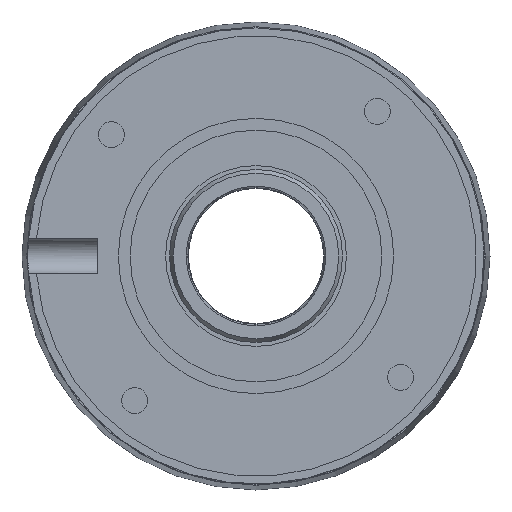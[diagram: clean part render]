
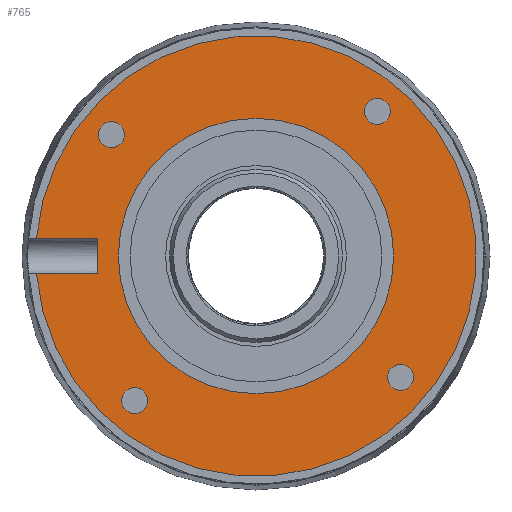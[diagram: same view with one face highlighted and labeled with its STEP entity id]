
A CAD part, left-side view. The second image highlights one B-rep face of the part: STEP entity #765.
In plain terms, the highlighted planar face has unit normal (-1, 0, 0).
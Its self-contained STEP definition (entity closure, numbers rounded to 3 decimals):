
#7 = AXIS2_PLACEMENT_3D ( 'NONE', #1388, #1692, #880 ) ;
#37 = EDGE_CURVE ( 'NONE', #883, #1172, #1647, .T. ) ;
#58 = VERTEX_POINT ( 'NONE', #176 ) ;
#128 = FACE_BOUND ( 'NONE', #238, .T. ) ;
#137 = CARTESIAN_POINT ( 'NONE',  ( 0., 27.909, -2.25 ) ) ;
#155 = ORIENTED_EDGE ( 'NONE', *, *, #37, .T. ) ;
#176 = CARTESIAN_POINT ( 'NONE',  ( 0., 18.385, 17.077 ) ) ;
#188 = VECTOR ( 'NONE', #1351, 1000. ) ;
#212 = AXIS2_PLACEMENT_3D ( 'NONE', #311, #1101, #1497 ) ;
#225 = CARTESIAN_POINT ( 'NONE',  ( 0., 20.2, -2.25 ) ) ;
#238 = EDGE_LOOP ( 'NONE', ( #317 ) ) ;
#245 = ORIENTED_EDGE ( 'NONE', *, *, #1038, .F. ) ;
#249 = CIRCLE ( 'NONE', #1654, 17.5 ) ;
#252 = DIRECTION ( 'NONE',  ( -1., 0., 0. ) ) ;
#258 = DIRECTION ( 'NONE',  ( 0., 0., 1. ) ) ;
#266 = DIRECTION ( 'NONE',  ( 0., 0., 1. ) ) ;
#278 = EDGE_LOOP ( 'NONE', ( #612 ) ) ;
#298 = FACE_BOUND ( 'NONE', #650, .T. ) ;
#311 = CARTESIAN_POINT ( 'NONE',  ( 0., -18.385, -15.427 ) ) ;
#317 = ORIENTED_EDGE ( 'NONE', *, *, #1726, .F. ) ;
#320 = CIRCLE ( 'NONE', #212, 1.65 ) ;
#321 = ORIENTED_EDGE ( 'NONE', *, *, #971, .F. ) ;
#380 = VECTOR ( 'NONE', #1003, 1000. ) ;
#385 = AXIS2_PLACEMENT_3D ( 'NONE', #561, #1084, #1744 ) ;
#400 = EDGE_CURVE ( 'NONE', #1666, #1666, #249, .T. ) ;
#419 = CARTESIAN_POINT ( 'NONE',  ( 0., 20.2, 2.25 ) ) ;
#429 = VERTEX_POINT ( 'NONE', #1731 ) ;
#447 = LINE ( 'NONE', #1544, #380 ) ;
#461 = CARTESIAN_POINT ( 'NONE',  ( 0., 20.2, 2.25 ) ) ;
#471 = EDGE_LOOP ( 'NONE', ( #509 ) ) ;
#488 = FACE_BOUND ( 'NONE', #471, .T. ) ;
#509 = ORIENTED_EDGE ( 'NONE', *, *, #400, .F. ) ;
#518 = EDGE_CURVE ( 'NONE', #572, #572, #320, .T. ) ;
#552 = CARTESIAN_POINT ( 'NONE',  ( 0., 0., 17.5 ) ) ;
#557 = LINE ( 'NONE', #419, #188 ) ;
#561 = CARTESIAN_POINT ( 'NONE',  ( 0., 18.385, 15.427 ) ) ;
#572 = VERTEX_POINT ( 'NONE', #589 ) ;
#581 = FACE_OUTER_BOUND ( 'NONE', #1359, .T. ) ;
#589 = CARTESIAN_POINT ( 'NONE',  ( 0., -18.385, -13.777 ) ) ;
#612 = ORIENTED_EDGE ( 'NONE', *, *, #518, .F. ) ;
#650 = EDGE_LOOP ( 'NONE', ( #321 ) ) ;
#747 = DIRECTION ( 'NONE',  ( -1., 0., 0. ) ) ;
#750 = DIRECTION ( 'NONE',  ( 0., 0., 1. ) ) ;
#765 = ADVANCED_FACE ( 'NONE', ( #298, #1114, #1327, #128, #581, #488 ), #939, .T. ) ;
#826 = CIRCLE ( 'NONE', #385, 1.65 ) ;
#837 = CARTESIAN_POINT ( 'NONE',  ( 0., 15.427, -16.735 ) ) ;
#878 = CARTESIAN_POINT ( 'NONE',  ( 0., -15.427, 18.385 ) ) ;
#880 = DIRECTION ( 'NONE',  ( 0., 0., 1. ) ) ;
#883 = VERTEX_POINT ( 'NONE', #137 ) ;
#939 = PLANE ( 'NONE',  #1567 ) ;
#947 = AXIS2_PLACEMENT_3D ( 'NONE', #878, #747, #750 ) ;
#971 = EDGE_CURVE ( 'NONE', #1551, #1551, #1303, .T. ) ;
#1003 = DIRECTION ( 'NONE',  ( 0., 0., 1. ) ) ;
#1035 = VERTEX_POINT ( 'NONE', #461 ) ;
#1038 = EDGE_CURVE ( 'NONE', #429, #1035, #447, .T. ) ;
#1055 = VECTOR ( 'NONE', #1159, 1000. ) ;
#1056 = CARTESIAN_POINT ( 'NONE',  ( 0., 0., 0. ) ) ;
#1060 = CARTESIAN_POINT ( 'NONE',  ( 0., 0., 0. ) ) ;
#1084 = DIRECTION ( 'NONE',  ( -1., 0., 0. ) ) ;
#1101 = DIRECTION ( 'NONE',  ( -1., 0., 0. ) ) ;
#1104 = CARTESIAN_POINT ( 'NONE',  ( 0., -15.427, 20.035 ) ) ;
#1114 = FACE_BOUND ( 'NONE', #278, .T. ) ;
#1143 = EDGE_CURVE ( 'NONE', #429, #883, #1343, .T. ) ;
#1159 = DIRECTION ( 'NONE',  ( 0., 1., 0. ) ) ;
#1169 = EDGE_CURVE ( 'NONE', #1506, #1506, #1689, .T. ) ;
#1172 = VERTEX_POINT ( 'NONE', #1579 ) ;
#1184 = DIRECTION ( 'NONE',  ( 0., 0., 1. ) ) ;
#1194 = DIRECTION ( 'NONE',  ( -1., 0., 0. ) ) ;
#1217 = EDGE_LOOP ( 'NONE', ( #1371 ) ) ;
#1254 = ORIENTED_EDGE ( 'NONE', *, *, #1410, .F. ) ;
#1274 = AXIS2_PLACEMENT_3D ( 'NONE', #1618, #1461, #258 ) ;
#1303 = CIRCLE ( 'NONE', #947, 1.65 ) ;
#1327 = FACE_BOUND ( 'NONE', #1217, .T. ) ;
#1343 = LINE ( 'NONE', #225, #1055 ) ;
#1351 = DIRECTION ( 'NONE',  ( 0., 1., 0. ) ) ;
#1359 = EDGE_LOOP ( 'NONE', ( #1759, #155, #1254, #245 ) ) ;
#1371 = ORIENTED_EDGE ( 'NONE', *, *, #1169, .F. ) ;
#1388 = CARTESIAN_POINT ( 'NONE',  ( 0., 0., 0. ) ) ;
#1410 = EDGE_CURVE ( 'NONE', #1035, #1172, #557, .T. ) ;
#1461 = DIRECTION ( 'NONE',  ( -1., 0., 0. ) ) ;
#1497 = DIRECTION ( 'NONE',  ( 0., 0., 1. ) ) ;
#1506 = VERTEX_POINT ( 'NONE', #837 ) ;
#1544 = CARTESIAN_POINT ( 'NONE',  ( 0., 20.2, -2.25 ) ) ;
#1551 = VERTEX_POINT ( 'NONE', #1104 ) ;
#1567 = AXIS2_PLACEMENT_3D ( 'NONE', #1056, #252, #1184 ) ;
#1579 = CARTESIAN_POINT ( 'NONE',  ( 0., 27.909, 2.25 ) ) ;
#1618 = CARTESIAN_POINT ( 'NONE',  ( 0., 15.427, -18.385 ) ) ;
#1647 = CIRCLE ( 'NONE', #7, 28. ) ;
#1654 = AXIS2_PLACEMENT_3D ( 'NONE', #1060, #1194, #266 ) ;
#1666 = VERTEX_POINT ( 'NONE', #552 ) ;
#1689 = CIRCLE ( 'NONE', #1274, 1.65 ) ;
#1692 = DIRECTION ( 'NONE',  ( -1., 0., 0. ) ) ;
#1726 = EDGE_CURVE ( 'NONE', #58, #58, #826, .T. ) ;
#1731 = CARTESIAN_POINT ( 'NONE',  ( 0., 20.2, -2.25 ) ) ;
#1744 = DIRECTION ( 'NONE',  ( 0., 0., 1. ) ) ;
#1759 = ORIENTED_EDGE ( 'NONE', *, *, #1143, .T. ) ;
